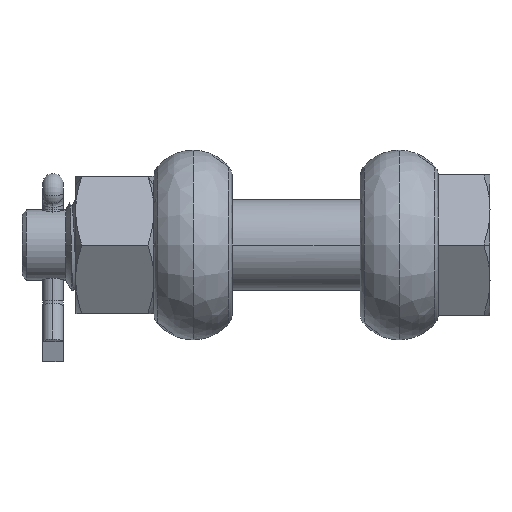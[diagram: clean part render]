
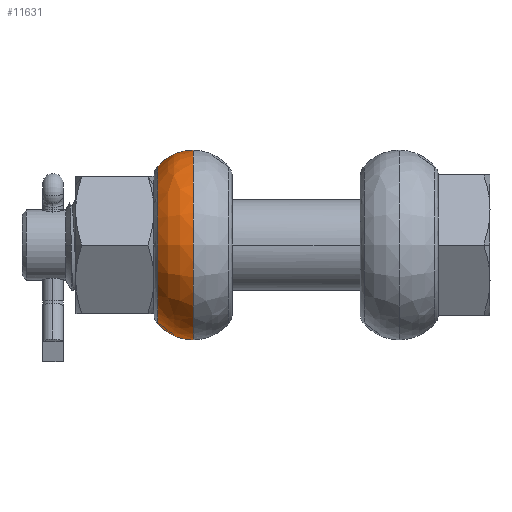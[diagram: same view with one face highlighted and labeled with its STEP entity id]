
A CAD part, front view. The second image highlights one B-rep face of the part: STEP entity #11631.
In plain terms, the highlighted free-form (B-spline) face has degree [3, 3] with [4, 4] control points.
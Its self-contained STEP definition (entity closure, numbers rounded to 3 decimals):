
#5157 = CIRCLE ( 'NONE', #5199, 23. ) ;
#5173 = FACE_OUTER_BOUND ( 'NONE', #11648, .T. ) ;
#5180 = CARTESIAN_POINT ( 'NONE',  ( -33.55, 0., 19.14 ) ) ;
#5181 = CARTESIAN_POINT ( 'NONE',  ( -33.55, -38.281, 19.14 ) ) ;
#5182 = CARTESIAN_POINT ( 'NONE',  ( -33.55, -38.281, -19.14 ) ) ;
#5183 = CARTESIAN_POINT ( 'NONE',  ( -33.55, 0., -19.14 ) ) ;
#5184 = CARTESIAN_POINT ( 'NONE',  ( -31.352, 0., 21.633 ) ) ;
#5185 = CARTESIAN_POINT ( 'NONE',  ( -31.352, -43.265, 21.633 ) ) ;
#5186 = CARTESIAN_POINT ( 'NONE',  ( -31.352, -43.265, -21.633 ) ) ;
#5187 = CARTESIAN_POINT ( 'NONE',  ( -31.352, 0., -21.633 ) ) ;
#5188 = CARTESIAN_POINT ( 'NONE',  ( -28.323, 0., 23. ) ) ;
#5189 = CARTESIAN_POINT ( 'NONE',  ( -28.323, -46., 23. ) ) ;
#5190 = CARTESIAN_POINT ( 'NONE',  ( -28.323, -46., -23. ) ) ;
#5191 = CARTESIAN_POINT ( 'NONE',  ( -28.323, 0., -23. ) ) ;
#5192 = CARTESIAN_POINT ( 'NONE',  ( -25., 0., 23. ) ) ;
#5193 = CARTESIAN_POINT ( 'NONE',  ( -25., -46., 23. ) ) ;
#5194 = CARTESIAN_POINT ( 'NONE',  ( -25., -46., -23. ) ) ;
#5195 = CARTESIAN_POINT ( 'NONE',  ( -25., 0., -23. ) ) ;
#5196 = DIRECTION ( 'NONE',  ( 0., 0., -1. ) ) ;
#5197 = DIRECTION ( 'NONE',  ( -1., 0., 0. ) ) ;
#5198 = CARTESIAN_POINT ( 'NONE',  ( -25., 0., 0. ) ) ;
#5199 = AXIS2_PLACEMENT_3D ( 'NONE', #5198, #5197, #5196 ) ;
#5200 =( BOUNDED_SURFACE ( )  B_SPLINE_SURFACE ( 3, 3, ( 
 ( #5195, #5194, #5193, #5192 ),
 ( #5191, #5190, #5189, #5188 ),
 ( #5187, #5186, #5185, #5184 ),
 ( #5183, #5182, #5181, #5180 ) ),
 .UNSPECIFIED., .F., .F., .F. ) 
 B_SPLINE_SURFACE_WITH_KNOTS ( ( 4, 4 ),
 ( 4, 4 ),
 ( 0., 1. ),
 ( 0., 1. ),
 .UNSPECIFIED. ) 
 GEOMETRIC_REPRESENTATION_ITEM ( )  RATIONAL_B_SPLINE_SURFACE ( (
 ( 1., 0.333, 0.333, 1.),
 ( 0.941, 0.314, 0.314, 0.941),
 ( 0.941, 0.314, 0.314, 0.941),
 ( 1., 0.333, 0.333, 1.) ) ) 
 REPRESENTATION_ITEM ( '' )  SURFACE ( )  );
#5205 = DIRECTION ( 'NONE',  ( 0., 0., -1. ) ) ;
#5206 = DIRECTION ( 'NONE',  ( 0., -1., 0. ) ) ;
#5207 = AXIS2_PLACEMENT_3D ( 'NONE', #5214, #5206, #5205 ) ;
#5208 = CIRCLE ( 'NONE', #5207, 11.4 ) ;
#5209 = DIRECTION ( 'NONE',  ( 0., 0., -1. ) ) ;
#5210 = DIRECTION ( 'NONE',  ( 0., -1., 0. ) ) ;
#5211 = CARTESIAN_POINT ( 'NONE',  ( -25., 0., 11.6 ) ) ;
#5212 = AXIS2_PLACEMENT_3D ( 'NONE', #5211, #5210, #5209 ) ;
#5213 = CIRCLE ( 'NONE', #5212, 11.4 ) ;
#5214 = CARTESIAN_POINT ( 'NONE',  ( -25., 0., -11.6 ) ) ;
#5215 = CARTESIAN_POINT ( 'NONE',  ( -25., 0., 23. ) ) ;
#5216 = CARTESIAN_POINT ( 'NONE',  ( -25., 0., -23. ) ) ;
#5568 = CARTESIAN_POINT ( 'NONE',  ( -33.55, 0., -19.14 ) ) ;
#5619 = CARTESIAN_POINT ( 'NONE',  ( -33.55, 0., 19.14 ) ) ;
#5620 = DIRECTION ( 'NONE',  ( 0., 0., -1. ) ) ;
#5621 = DIRECTION ( 'NONE',  ( -1., 0., 0. ) ) ;
#5622 = AXIS2_PLACEMENT_3D ( 'NONE', #5636, #5621, #5620 ) ;
#5623 = CIRCLE ( 'NONE', #5622, 19.14 ) ;
#5636 = CARTESIAN_POINT ( 'NONE',  ( -33.55, 0., 0. ) ) ;
#11631 = ADVANCED_FACE ( 'NONE', ( #5173 ), #5200, .F. ) ;
#11632 = ORIENTED_EDGE ( 'NONE', *, *, #11633, .T. ) ;
#11633 = EDGE_CURVE ( 'NONE', #11634, #11635, #5157, .T. ) ;
#11634 = VERTEX_POINT ( 'NONE', #5216 ) ;
#11635 = VERTEX_POINT ( 'NONE', #5215 ) ;
#11636 = ORIENTED_EDGE ( 'NONE', *, *, #11637, .T. ) ;
#11637 = EDGE_CURVE ( 'NONE', #11635, #11743, #5213, .T. ) ;
#11639 = ORIENTED_EDGE ( 'NONE', *, *, #11742, .F. ) ;
#11640 = ORIENTED_EDGE ( 'NONE', *, *, #11641, .T. ) ;
#11641 = EDGE_CURVE ( 'NONE', #11738, #11634, #5208, .T. ) ;
#11648 = EDGE_LOOP ( 'NONE', ( #11632, #11636, #11639, #11640 ) ) ;
#11738 = VERTEX_POINT ( 'NONE', #5568 ) ;
#11742 = EDGE_CURVE ( 'NONE', #11738, #11743, #5623, .T. ) ;
#11743 = VERTEX_POINT ( 'NONE', #5619 ) ;
